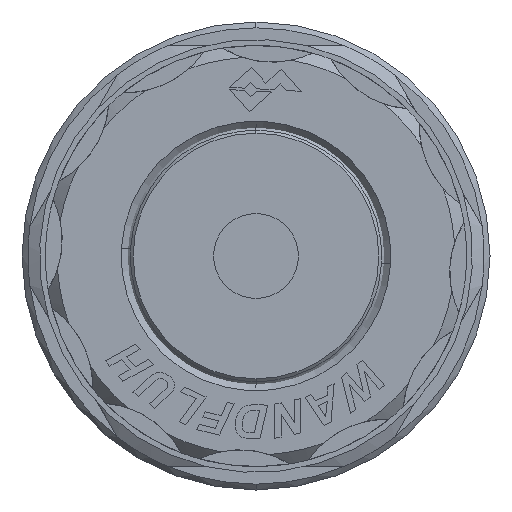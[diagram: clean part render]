
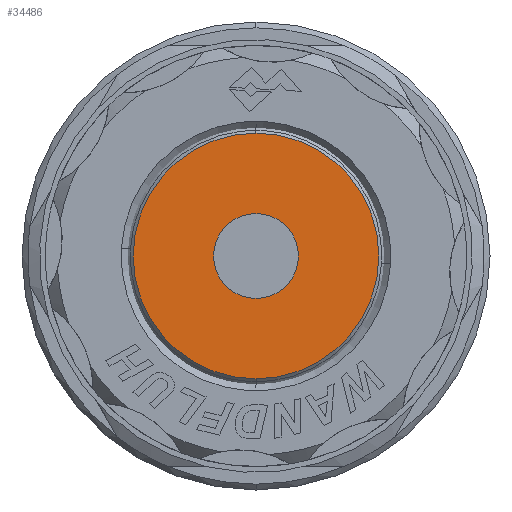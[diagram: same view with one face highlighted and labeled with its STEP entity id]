
A CAD part, left-side view. The second image highlights one B-rep face of the part: STEP entity #34486.
In plain terms, the highlighted planar face has unit normal (-1, 0, 0).
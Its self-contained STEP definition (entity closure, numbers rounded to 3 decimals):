
#755 = FACE_BOUND ( 'NONE', #32663, .T. ) ;
#1010 = EDGE_CURVE ( 'NONE', #11903, #23932, #19572, .T. ) ;
#2133 = CIRCLE ( 'NONE', #17000, 10.5 ) ;
#2470 = ORIENTED_EDGE ( 'NONE', *, *, #36126, .T. ) ;
#3524 = CARTESIAN_POINT ( 'NONE',  ( -70.2, 0., 0. ) ) ;
#3801 = CARTESIAN_POINT ( 'NONE',  ( -70.2, 0., -10.5 ) ) ;
#4150 = AXIS2_PLACEMENT_3D ( 'NONE', #20995, #21039, #21070 ) ;
#4342 = FACE_OUTER_BOUND ( 'NONE', #33917, .T. ) ;
#4615 = CARTESIAN_POINT ( 'NONE',  ( -70.2, 0., -3.625 ) ) ;
#4977 = CIRCLE ( 'NONE', #18318, 3.625 ) ;
#5349 = PLANE ( 'NONE',  #23160 ) ;
#6404 = DIRECTION ( 'NONE',  ( 0., 0., -1. ) ) ;
#6410 = VERTEX_POINT ( 'NONE', #19015 ) ;
#6779 = ORIENTED_EDGE ( 'NONE', *, *, #1010, .T. ) ;
#7387 = ORIENTED_EDGE ( 'NONE', *, *, #18490, .T. ) ;
#11364 = DIRECTION ( 'NONE',  ( 1., 0., 0. ) ) ;
#11903 = VERTEX_POINT ( 'NONE', #4615 ) ;
#14006 = DIRECTION ( 'NONE',  ( -1., 0., 0. ) ) ;
#15811 = CARTESIAN_POINT ( 'NONE',  ( -70.2, 0., 0. ) ) ;
#17000 = AXIS2_PLACEMENT_3D ( 'NONE', #3524, #23514, #6404 ) ;
#18318 = AXIS2_PLACEMENT_3D ( 'NONE', #15811, #35677, #18669 ) ;
#18470 = AXIS2_PLACEMENT_3D ( 'NONE', #31065, #14006, #33888 ) ;
#18490 = EDGE_CURVE ( 'NONE', #23932, #11903, #4977, .T. ) ;
#18669 = DIRECTION ( 'NONE',  ( 0., 0., -1. ) ) ;
#19015 = CARTESIAN_POINT ( 'NONE',  ( -70.2, 0., 10.5 ) ) ;
#19572 = CIRCLE ( 'NONE', #4150, 3.625 ) ;
#19823 = VERTEX_POINT ( 'NONE', #3801 ) ;
#20995 = CARTESIAN_POINT ( 'NONE',  ( -70.2, 0., 0. ) ) ;
#21039 = DIRECTION ( 'NONE',  ( 1., 0., 0. ) ) ;
#21070 = DIRECTION ( 'NONE',  ( 0., 0., -1. ) ) ;
#23160 = AXIS2_PLACEMENT_3D ( 'NONE', #28439, #11364, #31286 ) ;
#23514 = DIRECTION ( 'NONE',  ( -1., 0., 0. ) ) ;
#23932 = VERTEX_POINT ( 'NONE', #27197 ) ;
#26261 = ORIENTED_EDGE ( 'NONE', *, *, #30663, .T. ) ;
#27197 = CARTESIAN_POINT ( 'NONE',  ( -70.2, 0., 3.625 ) ) ;
#28439 = CARTESIAN_POINT ( 'NONE',  ( -70.2, 0., 0. ) ) ;
#30663 = EDGE_CURVE ( 'NONE', #6410, #19823, #2133, .T. ) ;
#31065 = CARTESIAN_POINT ( 'NONE',  ( -70.2, 0., 0. ) ) ;
#31286 = DIRECTION ( 'NONE',  ( 0., 0., -1. ) ) ;
#32663 = EDGE_LOOP ( 'NONE', ( #6779, #7387 ) ) ;
#33888 = DIRECTION ( 'NONE',  ( 0., 0., -1. ) ) ;
#33917 = EDGE_LOOP ( 'NONE', ( #2470, #26261 ) ) ;
#33991 = CIRCLE ( 'NONE', #18470, 10.5 ) ;
#34486 = ADVANCED_FACE ( 'NONE', ( #755, #4342 ), #5349, .F. ) ;
#35677 = DIRECTION ( 'NONE',  ( 1., 0., 0. ) ) ;
#36126 = EDGE_CURVE ( 'NONE', #19823, #6410, #33991, .T. ) ;
